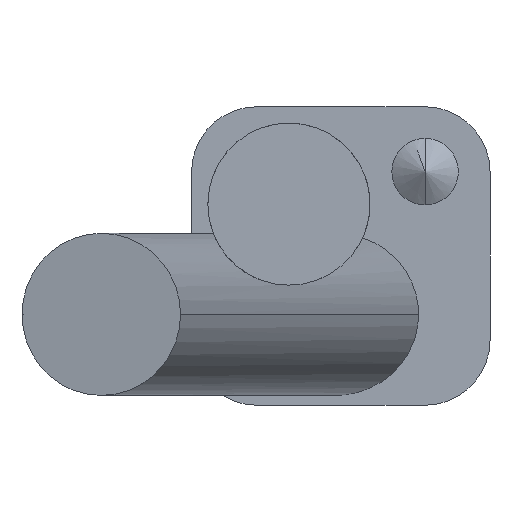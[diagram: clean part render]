
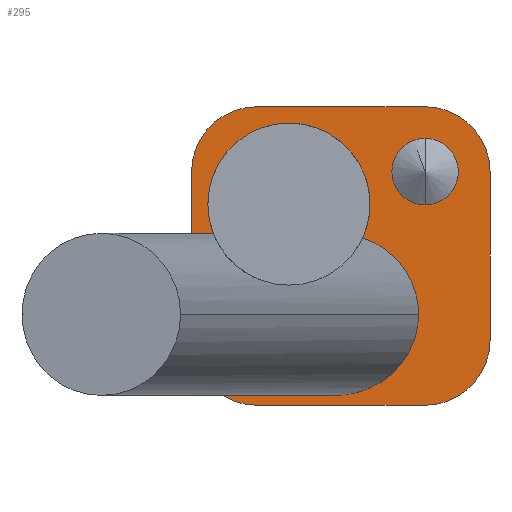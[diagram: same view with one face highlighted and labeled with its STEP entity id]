
A CAD part, front view. The second image highlights one B-rep face of the part: STEP entity #295.
In plain terms, the highlighted planar face has unit normal (0, -1, 0).
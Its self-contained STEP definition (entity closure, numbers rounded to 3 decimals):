
#3 = CIRCLE ( 'NONE', #397, 10. ) ;
#5 = EDGE_LOOP ( 'NONE', ( #142, #43, #638, #485, #622 ) ) ;
#13 = AXIS2_PLACEMENT_3D ( 'NONE', #348, #180, #577 ) ;
#15 = EDGE_CURVE ( 'NONE', #486, #511, #321, .T. ) ;
#25 = CARTESIAN_POINT ( 'NONE',  ( -13.562, 0., -9. ) ) ;
#26 = ORIENTED_EDGE ( 'NONE', *, *, #29, .T. ) ;
#29 = EDGE_CURVE ( 'NONE', #300, #621, #67, .T. ) ;
#31 = FACE_BOUND ( 'NONE', #56, .T. ) ;
#36 = AXIS2_PLACEMENT_3D ( 'NONE', #444, #121, #129 ) ;
#40 = CIRCLE ( 'NONE', #13, 5.125 ) ;
#43 = ORIENTED_EDGE ( 'NONE', *, *, #731, .T. ) ;
#49 = DIRECTION ( 'NONE',  ( 0., 0., -1. ) ) ;
#55 = DIRECTION ( 'NONE',  ( 0., 0., -1. ) ) ;
#56 = EDGE_LOOP ( 'NONE', ( #222, #532 ) ) ;
#57 = AXIS2_PLACEMENT_3D ( 'NONE', #739, #58, #629 ) ;
#58 = DIRECTION ( 'NONE',  ( 0., -1., 0. ) ) ;
#60 = CARTESIAN_POINT ( 'NONE',  ( -23.012, 0., 23.012 ) ) ;
#61 = EDGE_LOOP ( 'NONE', ( #501, #283, #456, #26, #352, #495, #86, #309 ) ) ;
#62 = CARTESIAN_POINT ( 'NONE',  ( 23.012, 0., 13.012 ) ) ;
#66 = LINE ( 'NONE', #450, #527 ) ;
#67 = CIRCLE ( 'NONE', #68, 10. ) ;
#68 = AXIS2_PLACEMENT_3D ( 'NONE', #197, #659, #88 ) ;
#69 = CARTESIAN_POINT ( 'NONE',  ( -13.562, 0., -9. ) ) ;
#86 = ORIENTED_EDGE ( 'NONE', *, *, #729, .F. ) ;
#88 = DIRECTION ( 'NONE',  ( 0., 0., -1. ) ) ;
#104 = VERTEX_POINT ( 'NONE', #358 ) ;
#105 = VERTEX_POINT ( 'NONE', #538 ) ;
#121 = DIRECTION ( 'NONE',  ( 0., -1., 0. ) ) ;
#124 = AXIS2_PLACEMENT_3D ( 'NONE', #159, #549, #610 ) ;
#125 = VECTOR ( 'NONE', #163, 1000. ) ;
#126 = VERTEX_POINT ( 'NONE', #605 ) ;
#129 = DIRECTION ( 'NONE',  ( 0., 0., -1. ) ) ;
#132 = LINE ( 'NONE', #618, #125 ) ;
#133 = CARTESIAN_POINT ( 'NONE',  ( 11.996, 0., -34. ) ) ;
#137 = CARTESIAN_POINT ( 'NONE',  ( -13.562, 0., -7.166 ) ) ;
#138 = LINE ( 'NONE', #428, #473 ) ;
#142 = ORIENTED_EDGE ( 'NONE', *, *, #226, .F. ) ;
#147 = FACE_BOUND ( 'NONE', #5, .T. ) ;
#159 = CARTESIAN_POINT ( 'NONE',  ( -8., 0., 8. ) ) ;
#163 = DIRECTION ( 'NONE',  ( 0., 0., 1. ) ) ;
#170 = PLANE ( 'NONE',  #212 ) ;
#175 = DIRECTION ( 'NONE',  ( 0., 0., -1. ) ) ;
#176 = CARTESIAN_POINT ( 'NONE',  ( 11.996, 0., -9. ) ) ;
#180 = DIRECTION ( 'NONE',  ( 0., -1., 0. ) ) ;
#190 =( BOUNDED_CURVE ( )  B_SPLINE_CURVE ( 3, ( #239, #133, #229, #69 ),
 .UNSPECIFIED., .F., .T. ) 
 B_SPLINE_CURVE_WITH_KNOTS ( ( 4, 4 ),
 ( 0., 3.142 ),
 .UNSPECIFIED. ) 
 CURVE ( )  GEOMETRIC_REPRESENTATION_ITEM ( )  RATIONAL_B_SPLINE_CURVE ( ( 1., 0.333, 0.333, 1. ) ) 
 REPRESENTATION_ITEM ( '' )  );
#197 = CARTESIAN_POINT ( 'NONE',  ( 13.012, 0., -13.012 ) ) ;
#212 = AXIS2_PLACEMENT_3D ( 'NONE', #331, #634, #175 ) ;
#213 = CARTESIAN_POINT ( 'NONE',  ( 13.012, 0., 13.012 ) ) ;
#222 = ORIENTED_EDGE ( 'NONE', *, *, #449, .F. ) ;
#224 = DIRECTION ( 'NONE',  ( -1., 0., 0. ) ) ;
#225 = CARTESIAN_POINT ( 'NONE',  ( 8.716, 0., 1.022 ) ) ;
#226 = EDGE_CURVE ( 'NONE', #231, #104, #262, .T. ) ;
#229 = CARTESIAN_POINT ( 'NONE',  ( -13.562, 0., -34. ) ) ;
#231 = VERTEX_POINT ( 'NONE', #311 ) ;
#236 = LINE ( 'NONE', #60, #324 ) ;
#237 = VERTEX_POINT ( 'NONE', #728 ) ;
#239 = CARTESIAN_POINT ( 'NONE',  ( 11.996, 0., -9. ) ) ;
#240 = EDGE_CURVE ( 'NONE', #442, #365, #415, .T. ) ;
#241 = CARTESIAN_POINT ( 'NONE',  ( -13.156, 0., -5.376 ) ) ;
#262 = CIRCLE ( 'NONE', #124, 12.5 ) ;
#263 = EDGE_CURVE ( 'NONE', #442, #237, #132, .T. ) ;
#275 = EDGE_CURVE ( 'NONE', #300, #365, #138, .T. ) ;
#279 = DIRECTION ( 'NONE',  ( 1., 0., 0. ) ) ;
#281 = CARTESIAN_POINT ( 'NONE',  ( 13.012, 0., -23.012 ) ) ;
#283 = ORIENTED_EDGE ( 'NONE', *, *, #240, .T. ) ;
#288 = EDGE_CURVE ( 'NONE', #104, #511, #689, .T. ) ;
#295 = ADVANCED_FACE ( 'NONE', ( #31, #147, #619 ), #170, .T. ) ;
#300 = VERTEX_POINT ( 'NONE', #281 ) ;
#309 = ORIENTED_EDGE ( 'NONE', *, *, #314, .T. ) ;
#311 = CARTESIAN_POINT ( 'NONE',  ( 3.376, 0., 2.82 ) ) ;
#314 = EDGE_CURVE ( 'NONE', #126, #237, #599, .T. ) ;
#321 =( BOUNDED_CURVE ( )  B_SPLINE_CURVE ( 3, ( #25, #137, #241, #648 ),
 .UNSPECIFIED., .F., .T. ) 
 B_SPLINE_CURVE_WITH_KNOTS ( ( 4, 4 ),
 ( 3.142, 3.578 ),
 .UNSPECIFIED. ) 
 CURVE ( )  GEOMETRIC_REPRESENTATION_ITEM ( )  RATIONAL_B_SPLINE_CURVE ( ( 1., 0.984, 0.984, 1. ) ) 
 REPRESENTATION_ITEM ( '' )  );
#324 = VECTOR ( 'NONE', #279, 1000. ) ;
#330 = CARTESIAN_POINT ( 'NONE',  ( 23.012, 0., -13.012 ) ) ;
#331 = CARTESIAN_POINT ( 'NONE',  ( 0., 0., 0. ) ) ;
#337 = VERTEX_POINT ( 'NONE', #62 ) ;
#343 = CARTESIAN_POINT ( 'NONE',  ( 11.996, 0., -9. ) ) ;
#348 = CARTESIAN_POINT ( 'NONE',  ( 13., 0., 13. ) ) ;
#352 = ORIENTED_EDGE ( 'NONE', *, *, #720, .F. ) ;
#358 = CARTESIAN_POINT ( 'NONE',  ( -8., 0., 20.5 ) ) ;
#365 = VERTEX_POINT ( 'NONE', #381 ) ;
#372 = DIRECTION ( 'NONE',  ( 0., 0., -1. ) ) ;
#380 = CIRCLE ( 'NONE', #36, 5.125 ) ;
#381 = CARTESIAN_POINT ( 'NONE',  ( -13.012, 0., -23.012 ) ) ;
#392 = CARTESIAN_POINT ( 'NONE',  ( 3.376, 0., 2.82 ) ) ;
#393 = CARTESIAN_POINT ( 'NONE',  ( -23.012, 0., -13.012 ) ) ;
#397 = AXIS2_PLACEMENT_3D ( 'NONE', #213, #620, #372 ) ;
#404 = CARTESIAN_POINT ( 'NONE',  ( 13., 0., 7.875 ) ) ;
#415 = CIRCLE ( 'NONE', #463, 10. ) ;
#428 = CARTESIAN_POINT ( 'NONE',  ( -23.012, 0., -23.012 ) ) ;
#430 = CARTESIAN_POINT ( 'NONE',  ( -13.012, 0., -13.012 ) ) ;
#433 = EDGE_CURVE ( 'NONE', #736, #486, #190, .T. ) ;
#442 = VERTEX_POINT ( 'NONE', #393 ) ;
#444 = CARTESIAN_POINT ( 'NONE',  ( 13., 0., 13. ) ) ;
#449 = EDGE_CURVE ( 'NONE', #572, #602, #40, .T. ) ;
#450 = CARTESIAN_POINT ( 'NONE',  ( 23.012, 0., 23.012 ) ) ;
#456 = ORIENTED_EDGE ( 'NONE', *, *, #275, .F. ) ;
#463 = AXIS2_PLACEMENT_3D ( 'NONE', #430, #484, #49 ) ;
#470 = CARTESIAN_POINT ( 'NONE',  ( 13., 0., 18.125 ) ) ;
#473 = VECTOR ( 'NONE', #224, 1000. ) ;
#484 = DIRECTION ( 'NONE',  ( 0., -1., 0. ) ) ;
#485 = ORIENTED_EDGE ( 'NONE', *, *, #15, .T. ) ;
#486 = VERTEX_POINT ( 'NONE', #523 ) ;
#495 = ORIENTED_EDGE ( 'NONE', *, *, #614, .T. ) ;
#501 = ORIENTED_EDGE ( 'NONE', *, *, #263, .F. ) ;
#511 = VERTEX_POINT ( 'NONE', #531 ) ;
#523 = CARTESIAN_POINT ( 'NONE',  ( -13.562, 0., -9. ) ) ;
#527 = VECTOR ( 'NONE', #569, 1000. ) ;
#531 = CARTESIAN_POINT ( 'NONE',  ( -12.363, 0., -3.714 ) ) ;
#532 = ORIENTED_EDGE ( 'NONE', *, *, #674, .F. ) ;
#538 = CARTESIAN_POINT ( 'NONE',  ( 13.012, 0., 23.012 ) ) ;
#549 = DIRECTION ( 'NONE',  ( 0., -1., 0. ) ) ;
#569 = DIRECTION ( 'NONE',  ( 0., 0., -1. ) ) ;
#572 = VERTEX_POINT ( 'NONE', #470 ) ;
#577 = DIRECTION ( 'NONE',  ( 0., 0., -1. ) ) ;
#590 = AXIS2_PLACEMENT_3D ( 'NONE', #685, #735, #55 ) ;
#599 = CIRCLE ( 'NONE', #57, 10. ) ;
#602 = VERTEX_POINT ( 'NONE', #404 ) ;
#605 = CARTESIAN_POINT ( 'NONE',  ( -13.012, 0., 23.012 ) ) ;
#610 = DIRECTION ( 'NONE',  ( 0., 0., -1. ) ) ;
#614 = EDGE_CURVE ( 'NONE', #337, #105, #3, .T. ) ;
#618 = CARTESIAN_POINT ( 'NONE',  ( -23.012, 0., 23.012 ) ) ;
#619 = FACE_OUTER_BOUND ( 'NONE', #61, .T. ) ;
#620 = DIRECTION ( 'NONE',  ( 0., -1., 0. ) ) ;
#621 = VERTEX_POINT ( 'NONE', #330 ) ;
#622 = ORIENTED_EDGE ( 'NONE', *, *, #288, .F. ) ;
#629 = DIRECTION ( 'NONE',  ( 0., 0., -1. ) ) ;
#634 = DIRECTION ( 'NONE',  ( 0., -1., 0. ) ) ;
#635 = CARTESIAN_POINT ( 'NONE',  ( 11.996, 0., -3.476 ) ) ;
#638 = ORIENTED_EDGE ( 'NONE', *, *, #433, .T. ) ;
#648 = CARTESIAN_POINT ( 'NONE',  ( -12.363, 0., -3.714 ) ) ;
#659 = DIRECTION ( 'NONE',  ( 0., -1., 0. ) ) ;
#668 =( BOUNDED_CURVE ( )  B_SPLINE_CURVE ( 3, ( #392, #225, #635, #176 ),
 .UNSPECIFIED., .F., .T. ) 
 B_SPLINE_CURVE_WITH_KNOTS ( ( 4, 4 ),
 ( 5.044, 6.283 ),
 .UNSPECIFIED. ) 
 CURVE ( )  GEOMETRIC_REPRESENTATION_ITEM ( )  RATIONAL_B_SPLINE_CURVE ( ( 1., 0.876, 0.876, 1. ) ) 
 REPRESENTATION_ITEM ( '' )  );
#674 = EDGE_CURVE ( 'NONE', #602, #572, #380, .T. ) ;
#685 = CARTESIAN_POINT ( 'NONE',  ( -8., 0., 8. ) ) ;
#689 = CIRCLE ( 'NONE', #590, 12.5 ) ;
#720 = EDGE_CURVE ( 'NONE', #337, #621, #66, .T. ) ;
#728 = CARTESIAN_POINT ( 'NONE',  ( -23.012, 0., 13.012 ) ) ;
#729 = EDGE_CURVE ( 'NONE', #126, #105, #236, .T. ) ;
#731 = EDGE_CURVE ( 'NONE', #231, #736, #668, .T. ) ;
#735 = DIRECTION ( 'NONE',  ( 0., -1., 0. ) ) ;
#736 = VERTEX_POINT ( 'NONE', #343 ) ;
#739 = CARTESIAN_POINT ( 'NONE',  ( -13.012, 0., 13.012 ) ) ;
